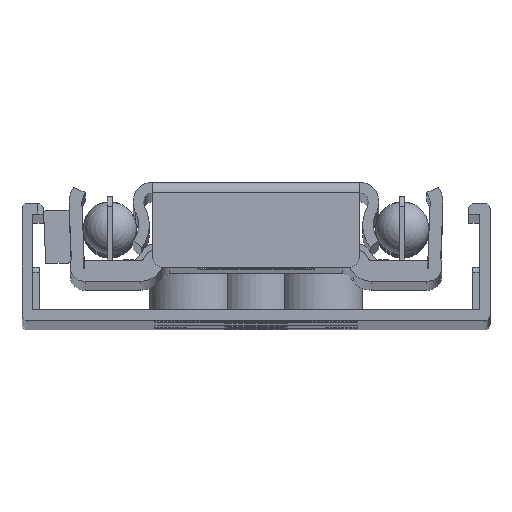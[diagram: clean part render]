
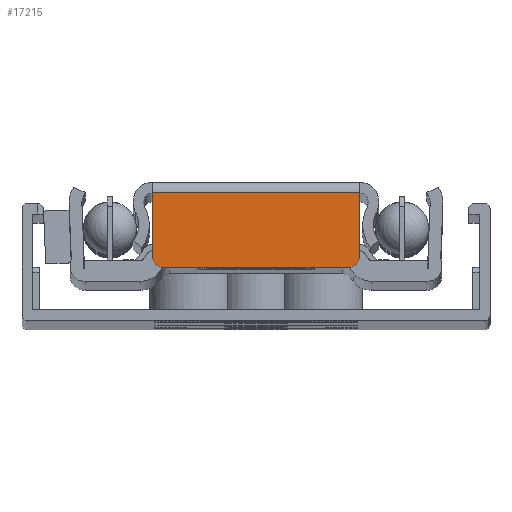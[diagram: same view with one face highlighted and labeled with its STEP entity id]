
A CAD part, top view. The second image highlights one B-rep face of the part: STEP entity #17215.
In plain terms, the highlighted planar face has unit normal (0, 0, 1).
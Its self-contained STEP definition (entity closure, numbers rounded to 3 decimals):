
#801=PLANE('',#18885);
#1648=FACE_OUTER_BOUND('',#2677,.T.);
#2677=EDGE_LOOP('',(#15901,#15902,#15903,#15904,#15905,#15906));
#4372=LINE('',#29167,#6071);
#4373=LINE('',#29170,#6072);
#4374=LINE('',#29174,#6073);
#4375=LINE('',#29177,#6074);
#6071=VECTOR('',#23783,10.);
#6072=VECTOR('',#23786,10.);
#6073=VECTOR('',#23789,10.);
#6074=VECTOR('',#23792,10.);
#6868=CIRCLE('',#18886,1.);
#6869=CIRCLE('',#18887,1.);
#8498=VERTEX_POINT('',#29163);
#8499=VERTEX_POINT('',#29165);
#8500=VERTEX_POINT('',#29169);
#8501=VERTEX_POINT('',#29171);
#8502=VERTEX_POINT('',#29173);
#8503=VERTEX_POINT('',#29175);
#10984=EDGE_CURVE('',#8499,#8498,#4372,.T.);
#10985=EDGE_CURVE('',#8499,#8500,#4373,.T.);
#10986=EDGE_CURVE('',#8501,#8500,#6868,.T.);
#10987=EDGE_CURVE('',#8501,#8502,#4374,.T.);
#10988=EDGE_CURVE('',#8503,#8502,#6869,.T.);
#10989=EDGE_CURVE('',#8498,#8503,#4375,.T.);
#15901=ORIENTED_EDGE('',*,*,#10984,.F.);
#15902=ORIENTED_EDGE('',*,*,#10985,.T.);
#15903=ORIENTED_EDGE('',*,*,#10986,.F.);
#15904=ORIENTED_EDGE('',*,*,#10987,.T.);
#15905=ORIENTED_EDGE('',*,*,#10988,.F.);
#15906=ORIENTED_EDGE('',*,*,#10989,.F.);
#17215=ADVANCED_FACE('',(#1648),#801,.T.);
#18885=AXIS2_PLACEMENT_3D('',#29168,#23784,#23785);
#18886=AXIS2_PLACEMENT_3D('',#29172,#23787,#23788);
#18887=AXIS2_PLACEMENT_3D('',#29176,#23790,#23791);
#23783=DIRECTION('',(-1.,0.,0.));
#23784=DIRECTION('center_axis',(0.,0.,1.));
#23785=DIRECTION('ref_axis',(1.,0.,0.));
#23786=DIRECTION('',(0.,1.,0.));
#23787=DIRECTION('center_axis',(0.,0.,-1.));
#23788=DIRECTION('ref_axis',(0.707,0.707,0.));
#23789=DIRECTION('',(-1.,0.,0.));
#23790=DIRECTION('center_axis',(0.,0.,-1.));
#23791=DIRECTION('ref_axis',(-0.707,0.707,0.));
#23792=DIRECTION('',(0.,1.,0.));
#29163=CARTESIAN_POINT('',(4.892,-4.95,499.));
#29165=CARTESIAN_POINT('',(24.354,-4.95,499.));
#29167=CARTESIAN_POINT('',(19.501,-4.95,499.));
#29168=CARTESIAN_POINT('Origin',(24.354,-5.95,499.));
#29169=CARTESIAN_POINT('',(24.354,1.05,499.));
#29170=CARTESIAN_POINT('',(24.354,-5.95,499.));
#29171=CARTESIAN_POINT('',(23.354,2.05,499.));
#29172=CARTESIAN_POINT('Origin',(23.354,1.05,499.));
#29173=CARTESIAN_POINT('',(5.892,2.05,499.));
#29174=CARTESIAN_POINT('',(24.354,2.05,499.));
#29175=CARTESIAN_POINT('',(4.892,1.05,499.));
#29176=CARTESIAN_POINT('Origin',(5.892,1.05,499.));
#29177=CARTESIAN_POINT('',(4.892,-5.95,499.));
